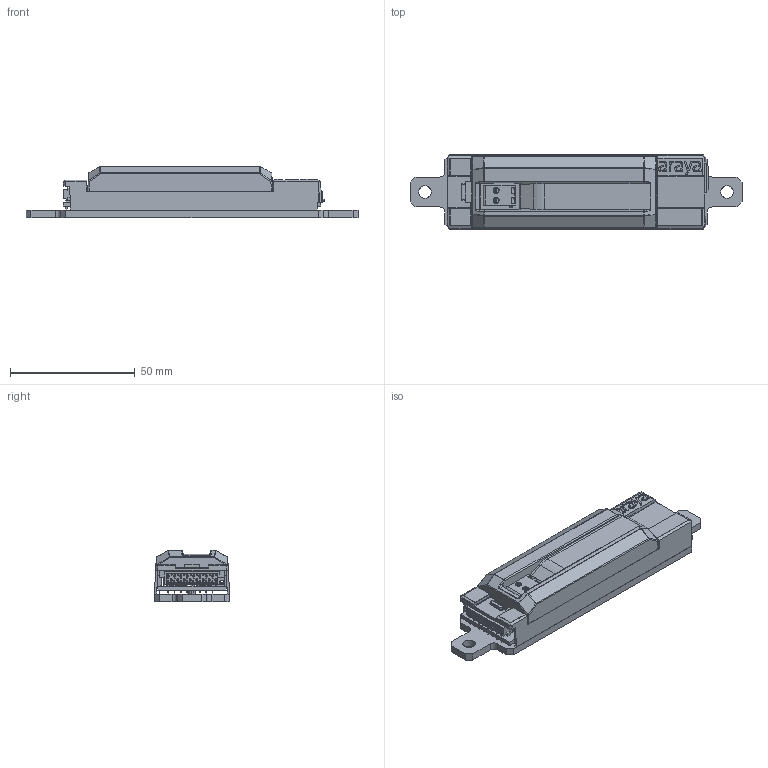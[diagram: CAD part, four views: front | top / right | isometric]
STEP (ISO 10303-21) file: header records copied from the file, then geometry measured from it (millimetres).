
FILE_DESCRIPTION (( 'STEP AP203' ), '1' );
FILE_NAME ('ALM ASSEMBLY LUTRON DB PROFILE SHELL.STEP', '2016-10-06T18:37:51', ( 'Rob' ), ( '' ), 'SwSTEP 2.0', 'SolidWorks 2015', '' );
FILE_SCHEMA (( 'CONFIG_CONTROL_DESIGN' ));
Length unit declared in the file: inch
Products named in the file (1): ALM ASSEMBLY LUTRON DB PROFILE SHELL
Bounding box: 133 x 30.05 x 20.53 mm (x, y, z)
Surface area: 26989.3 mm2 (no closed solid volume)
Topology: 0 solids, 79 shells, 959 faces, 3742 edges, 2810 vertices
Faces by surface type: plane 659, cylinder 198, bspline 63, sphere 33, cone 4, torus 2
Entity records: 39376 total; most frequent: CARTESIAN_POINT 9012, DIRECTION 5951, ORIENTED_EDGE 5480, EDGE_CURVE 3742, VECTOR 2945, LINE 2945, VERTEX_POINT 2810, AXIS2_PLACEMENT_3D 1503
